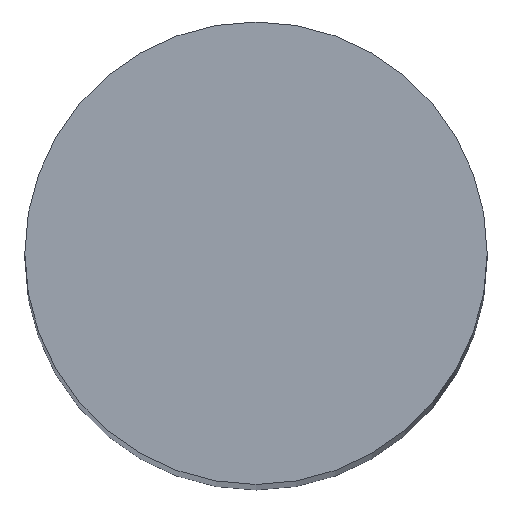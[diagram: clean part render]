
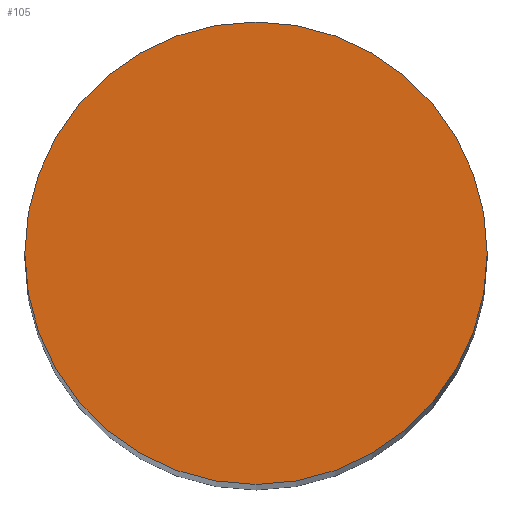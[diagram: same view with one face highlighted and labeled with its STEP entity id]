
A CAD part, top view. The second image highlights one B-rep face of the part: STEP entity #105.
In plain terms, the highlighted planar face has unit normal (0, 0, 1).
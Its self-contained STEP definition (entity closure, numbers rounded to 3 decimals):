
#21 = EDGE_CURVE('',#22,#22,#24,.T.);
#22 = VERTEX_POINT('',#23);
#23 = CARTESIAN_POINT('',(-395.544,-142.369,56.));
#24 = SURFACE_CURVE('',#25,(#30,#42),.PCURVE_S1.);
#25 = CIRCLE('',#26,4.);
#26 = AXIS2_PLACEMENT_3D('',#27,#28,#29);
#27 = CARTESIAN_POINT('',(-399.544,-142.369,56.));
#28 = DIRECTION('',(0.,0.,1.));
#29 = DIRECTION('',(1.,0.,-0.));
#30 = PCURVE('',#31,#36);
#31 = CYLINDRICAL_SURFACE('',#32,4.);
#32 = AXIS2_PLACEMENT_3D('',#33,#34,#35);
#33 = CARTESIAN_POINT('',(-399.544,-142.369,1.));
#34 = DIRECTION('',(0.,0.,1.));
#35 = DIRECTION('',(1.,0.,-0.));
#36 = DEFINITIONAL_REPRESENTATION('',(#37),#41);
#37 = LINE('',#38,#39);
#38 = CARTESIAN_POINT('',(0.,55.));
#39 = VECTOR('',#40,1.);
#40 = DIRECTION('',(1.,0.));
#41 = ( GEOMETRIC_REPRESENTATION_CONTEXT(2) 
PARAMETRIC_REPRESENTATION_CONTEXT() REPRESENTATION_CONTEXT('2D SPACE',''
  ) );
#42 = PCURVE('',#43,#48);
#43 = PLANE('',#44);
#44 = AXIS2_PLACEMENT_3D('',#45,#46,#47);
#45 = CARTESIAN_POINT('',(-399.544,-142.369,56.));
#46 = DIRECTION('',(0.,0.,1.));
#47 = DIRECTION('',(1.,0.,-0.));
#48 = DEFINITIONAL_REPRESENTATION('',(#49),#53);
#49 = CIRCLE('',#50,4.);
#50 = AXIS2_PLACEMENT_2D('',#51,#52);
#51 = CARTESIAN_POINT('',(0.,0.));
#52 = DIRECTION('',(1.,0.));
#53 = ( GEOMETRIC_REPRESENTATION_CONTEXT(2) 
PARAMETRIC_REPRESENTATION_CONTEXT() REPRESENTATION_CONTEXT('2D SPACE',''
  ) );
#105 = ADVANCED_FACE('',(#106),#43,.T.);
#106 = FACE_BOUND('',#107,.T.);
#107 = EDGE_LOOP('',(#108));
#108 = ORIENTED_EDGE('',*,*,#21,.T.);
